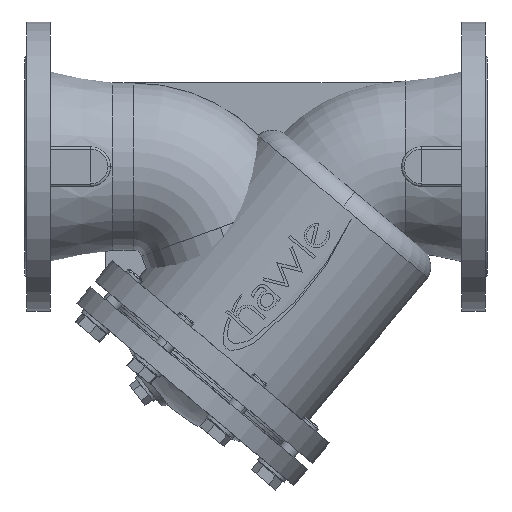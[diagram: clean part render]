
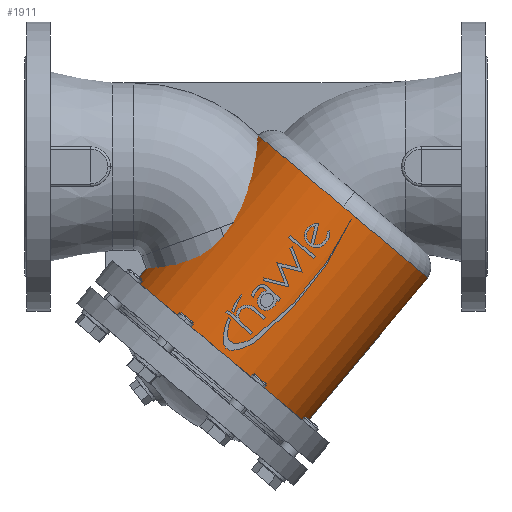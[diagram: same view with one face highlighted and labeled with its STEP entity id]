
A CAD part, front view. The second image highlights one B-rep face of the part: STEP entity #1911.
In plain terms, the highlighted cylindrical face has radius 96 mm (diameter 192 mm), a partial arc.
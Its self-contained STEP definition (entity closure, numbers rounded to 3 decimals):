
#1911=ADVANCED_FACE('',(#3670),#3671,.T.);
#3670=FACE_OUTER_BOUND('',#5876,.T.);
#3671=CYLINDRICAL_SURFACE('',#5877,96.);
#5876=EDGE_LOOP('',(#8820,#8821,#8822,#8823));
#5877=AXIS2_PLACEMENT_3D('',#8824,#8825,#8826);
#8820=ORIENTED_EDGE('',*,*,#11610,.T.);
#8821=ORIENTED_EDGE('',*,*,#12416,.T.);
#8822=ORIENTED_EDGE('',*,*,#11612,.T.);
#8823=ORIENTED_EDGE('',*,*,#12417,.T.);
#8824=CARTESIAN_POINT('',(-230.343,0.0,-160.103));
#8825=DIRECTION('',(0.643,0.0,0.766));
#8826=DIRECTION('',(0.766,0.0,-0.643));
#11610=EDGE_CURVE('',#13537,#13538,#13539,.T.);
#11612=EDGE_CURVE('',#13542,#13540,#13543,.T.);
#12416=EDGE_CURVE('',#13538,#13542,#14775,.T.);
#12417=EDGE_CURVE('',#13540,#13537,#14776,.T.);
#13537=VERTEX_POINT('',#16164);
#13538=VERTEX_POINT('',#16165);
#13539=LINE('',#16166,#16167);
#13540=VERTEX_POINT('',#16168);
#13542=VERTEX_POINT('',#16170);
#13543=LINE('',#16171,#16172);
#14775=CIRCLE('',#17718,96.);
#14776=CIRCLE('',#17719,96.);
#16164=CARTESIAN_POINT('',(-156.803,0.0,-221.811));
#16165=CARTESIAN_POINT('',(-51.386,0.0,-96.179));
#16166=CARTESIAN_POINT('',(-156.803,0.,-221.811));
#16167=VECTOR('',#19129,1.0);
#16168=CARTESIAN_POINT('',(-303.883,0.,-98.395));
#16170=CARTESIAN_POINT('',(-198.466,0.,27.236));
#16171=CARTESIAN_POINT('',(-303.883,0.,-98.395));
#16172=VECTOR('',#19133,1.0);
#17718=AXIS2_PLACEMENT_3D('',#20237,#20238,#20239);
#17719=AXIS2_PLACEMENT_3D('',#20240,#20241,#20242);
#19129=DIRECTION('',(0.643,0.0,0.766));
#19133=DIRECTION('',(-0.643,-0.0,-0.766));
#20237=CARTESIAN_POINT('',(-124.926,0.0,-34.472));
#20238=DIRECTION('',(-0.643,-0.0,-0.766));
#20239=DIRECTION('',(0.766,0.0,-0.643));
#20240=CARTESIAN_POINT('',(-230.343,0.0,-160.103));
#20241=DIRECTION('',(0.643,0.0,0.766));
#20242=DIRECTION('',(0.766,0.0,-0.643));
